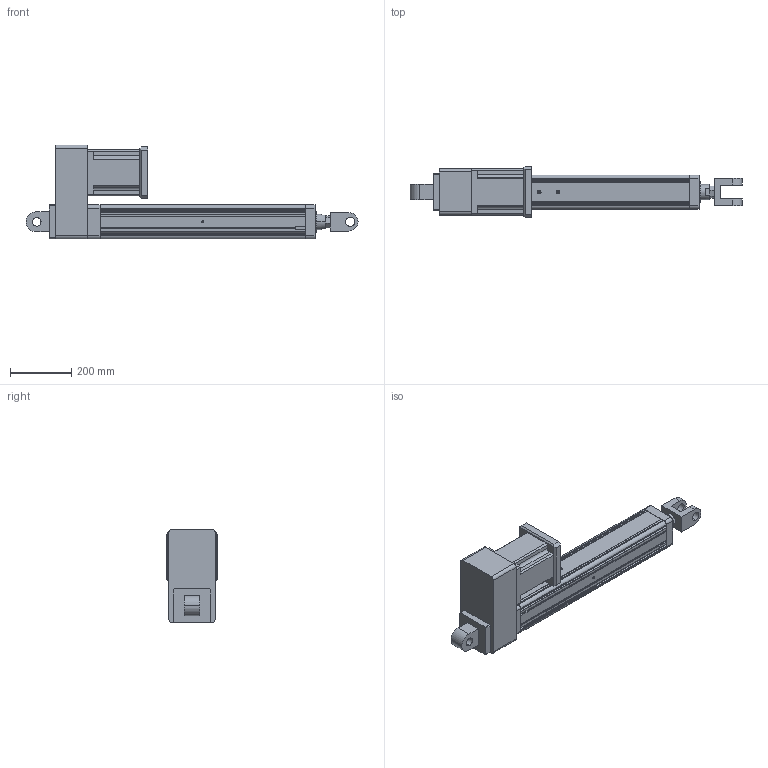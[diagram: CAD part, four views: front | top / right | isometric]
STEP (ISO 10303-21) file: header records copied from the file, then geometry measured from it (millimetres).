
FILE_DESCRIPTION (( 'STEP AP203' ), '1' );
FILE_NAME ('YRJ110-L500-H6K4.STEP', '2020-01-04T06:56:25', ( 'User' ), ( 'China' ), 'SwSTEP 2.0', 'SolidWorks 2016', '' );
FILE_SCHEMA (( 'CONFIG_CONTROL_DESIGN' ));
Length unit declared in the file: millimetre
Products named in the file (8): 142熬厒儂; K4-110; H5-110-1; H6-110; H3-110-2; YRJ110-L500-H6K4; 095-100俴最倰第; 萇儂碟-110
Assembly tree (7 placements, depth 2):
  YRJ110-L500-H6K4
    095-100俴最倰第
    萇儂碟-110
    142熬厒儂
    K4-110
    H5-110-1
    H6-110
    H3-110-2
Bounding box: 1081 x 168 x 305.5 mm (x, y, z)
Volume: 13239133.5 mm3; surface area: 1152260.4 mm2
Topology: 7 solids, 7 shells, 336 faces, 919 edges, 595 vertices
Faces by surface type: plane 191, cylinder 118, cone 27
Entity records: 11712 total; most frequent: CARTESIAN_POINT 2184, DIRECTION 1824, ORIENTED_EDGE 1806, EDGE_CURVE 903, VECTOR 630, LINE 630, AXIS2_PLACEMENT_3D 597, VERTEX_POINT 595
